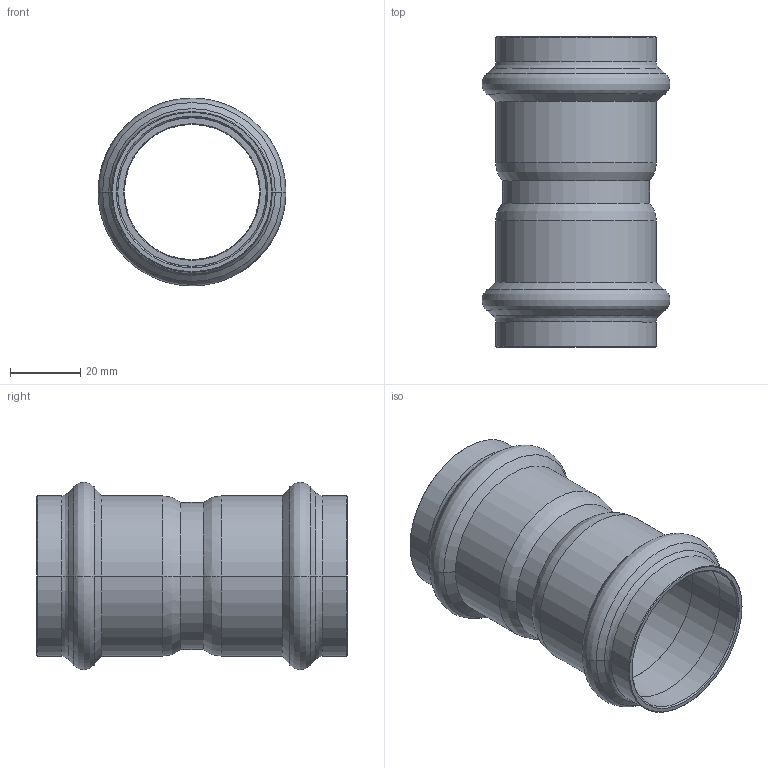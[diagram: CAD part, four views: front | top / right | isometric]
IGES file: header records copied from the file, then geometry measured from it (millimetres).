
Start section: Elysium IGES Interface
Global section: file name: C:\3d modellen sudo\C-Pr VP\SP8270V\8270VW42.igs; native system: CoCreate Modeling 17.00A  17-Jun-2010; preprocessor: CoCreate IGES_3D V2.2; author: Unknown; organization: Unknown; date: 20130129.115848; units: millimetre
Bounding box: 53.61 x 88.58 x 53.57 mm (x, y, z)
Volume: 29374 mm3; surface area: 27022.5 mm2
Topology: 1 solids, 1 shells, 74 faces, 152 edges, 80 vertices
Faces by surface type: bspline 74
